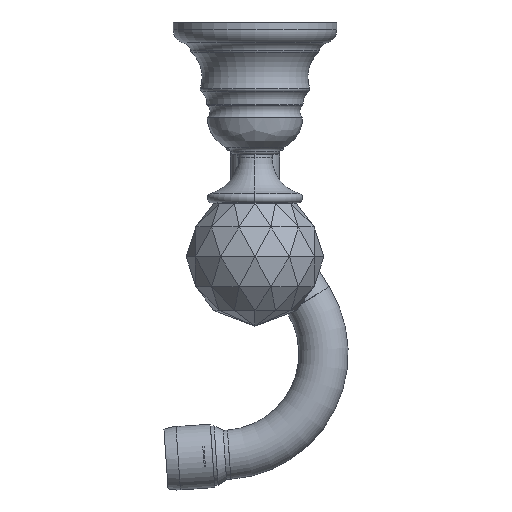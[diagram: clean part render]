
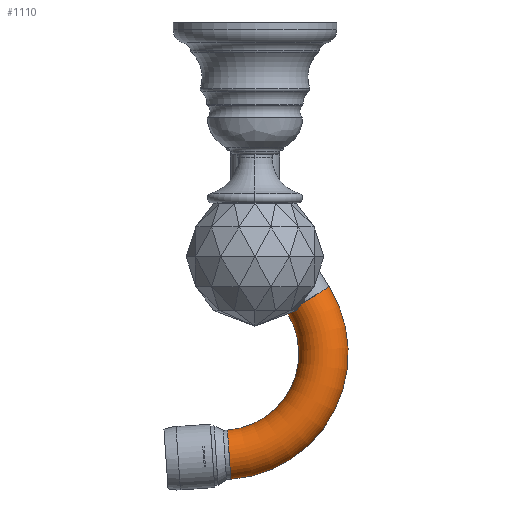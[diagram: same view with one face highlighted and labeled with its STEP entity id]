
A CAD part, front view. The second image highlights one B-rep face of the part: STEP entity #1110.
In plain terms, the highlighted toroidal (fillet/blend) face has major radius 37 mm and minor radius 9 mm.
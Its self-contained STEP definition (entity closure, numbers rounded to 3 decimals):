
#266=CARTESIAN_POINT('',(-12.,0.,-145.92));
#267=DIRECTION('',(0.,1.,0.));
#268=DIRECTION('',(0.848,0.,0.53));
#269=AXIS2_PLACEMENT_3D('',#266,#267,#268);
#271=CARTESIAN_POINT('',(19.378,0.,-126.313));
#272=DIRECTION('',(0.53,0.,-0.848));
#273=DIRECTION('',(0.848,0.,0.53));
#274=AXIS2_PLACEMENT_3D('',#271,#272,#273);
#276=CARTESIAN_POINT('',(-12.,0.,-145.92));
#277=DIRECTION('',(0.,1.,0.));
#278=DIRECTION('',(0.848,0.,0.53));
#279=AXIS2_PLACEMENT_3D('',#276,#277,#278);
#286=CARTESIAN_POINT('',(-9.419,0.,-182.83));
#287=DIRECTION('',(-0.998,0.,-0.07));
#288=DIRECTION('',(0.07,0.,-0.998));
#289=AXIS2_PLACEMENT_3D('',#286,#287,#288);
#577=CARTESIAN_POINT('',(27.01,0.,-121.544));
#578=CARTESIAN_POINT('',(11.745,0.,-131.082));
#579=VERTEX_POINT('',#577);
#580=VERTEX_POINT('',#578);
#581=CARTESIAN_POINT('',(-8.791,0.,-191.808));
#582=CARTESIAN_POINT('',(-10.047,0.,-173.852));
#583=VERTEX_POINT('',#581);
#584=VERTEX_POINT('',#582);
#1098=CARTESIAN_POINT('',(-12.,0.,-145.92));
#1099=DIRECTION('',(0.,1.,0.));
#1100=DIRECTION('',(-0.848,0.,-0.53));
#1101=AXIS2_PLACEMENT_3D('',#1098,#1099,#1100);
#1102=TOROIDAL_SURFACE('',#1101,37.,9.);
#1103=ORIENTED_EDGE('',*,*,#1063,.F.);
#1104=ORIENTED_EDGE('',*,*,#1093,.T.);
#1106=ORIENTED_EDGE('',*,*,#1105,.T.);
#1107=ORIENTED_EDGE('',*,*,#1089,.F.);
#1108=EDGE_LOOP('',(#1103,#1104,#1106,#1107));
#1109=FACE_OUTER_BOUND('',#1108,.F.);
#1110=ADVANCED_FACE('',(#1109),#1102,.T.);
#270=CIRCLE('',#269,28.);
#275=CIRCLE('',#274,9.);
#280=CIRCLE('',#279,46.);
#290=CIRCLE('',#289,9.);
#1063=EDGE_CURVE('',#579,#580,#275,.T.);
#1089=EDGE_CURVE('',#580,#584,#270,.T.);
#1093=EDGE_CURVE('',#579,#583,#280,.T.);
#1105=EDGE_CURVE('',#583,#584,#290,.T.);
